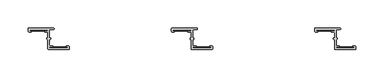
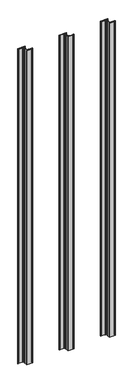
"""IFC4 building model written with IfcOpenShell, lengths in millimetres: fastener geometry."""

from ifc_helpers import new_model, si_unit, frame, origin, origin_with_axes, place, context, project, spatial, polyline, circle_curve, outline, extrude, source, transform, mapped, element, save
from ifc_brep_helpers import plane_surface, cylinder_surface, revolved_surface, advanced_brep


def fastener_0e16a299(model_context):
    return source(origin(), model_context, "Body", "SolidModel", [
        advanced_brep(
        [(1070.102, -3.556, 2032.0), (1101.09, -3.556, 2032.0), (1101.09, -5.2832, 2032.0), (1096.899, -5.2832, 2032.0), (1096.899, -7.3152, 2032.0), (1101.09, -7.3152, 2032.0), (1101.852, -8.0772, 2032.0), (1101.852, -17.7601563, 2032.0), (1101.0035567, -17.7601563, 2032.0), (1101.0035567, -20.4288947, 2032.0), (1101.852, -20.4288947, 2032.0), (1101.852, -37.3379766, 2032.0), (1102.614, -38.0999766, 2032.0), (1138.8513242, -38.1, 2032.0), (1139.571, -37.3379766, 2032.0), (1139.571, -33.7057766, 2032.0), (1137.539, -31.6737766, 2032.0), (1135.253, -31.6737766, 2032.0), (1135.253, -33.7057766, 2032.0), (1136.269, -33.7057766, 2032.0), (1136.269, -35.4329766, 2032.0), (1105.281, -35.4329766, 2032.0), (1105.281, -33.7057766, 2032.0), (1109.472, -33.7057766, 2032.0), (1109.472, -31.6737766, 2032.0), (1105.281, -31.6737766, 2032.0), (1104.519, -30.9117766, 2032.0), (1104.519, -20.4279799, 2032.0), (1105.3679007, -20.4279799, 2032.0), (1105.3679007, -17.7601563, 2032.0), (1104.519, -17.7601563, 2032.0), (1104.519, -3.429, 2032.0), (1105.281, -2.667, 2032.0), (1111.377, -2.667, 2032.0), (1111.377, 0.0, 2032.0), (1067.562, 0.0, 2032.0), (1066.8, -0.762, 2032.0), (1066.8, -5.2832, 2032.0), (1068.832, -7.3152, 2032.0), (1071.118, -7.3152, 2032.0), (1071.118, -5.2832, 2032.0), (1070.102, -5.2832, 2032.0), (1070.102, -3.556, 0.0), (1070.102, -5.2832, 0.0), (1071.118, -5.2832, 0.0), (1071.118, -7.3152, 0.0), (1068.832, -7.3152, 0.0), (1066.8, -5.2832, 0.0), (1066.8, -0.762, 0.0), (1067.562, 0.0, 0.0), (1111.377, 0.0, 0.0), (1111.377, -2.667, 0.0), (1105.281, -2.667, 0.0), (1104.519, -3.429, 0.0), (1104.519, -17.7601563, 0.0), (1105.3679007, -17.7601563, 0.0), (1105.3679007, -20.4279799, 0.0), (1104.519, -20.4279799, 0.0), (1104.519, -30.9117766, 0.0), (1105.281, -31.6737766, 0.0), (1109.472, -31.6737766, 0.0), (1109.472, -33.7057766, 0.0), (1105.281, -33.7057766, 0.0), (1105.281, -35.4329766, 0.0), (1136.269, -35.4329766, 0.0), (1136.269, -33.7057766, 0.0), (1135.253, -33.7057766, 0.0), (1135.253, -31.6737766, 0.0), (1137.539, -31.6737766, 0.0), (1139.571, -33.7057766, 0.0), (1139.571, -37.3379766, 0.0), (1138.809, -38.0999766, 0.0), (1102.7467826, -38.1, 0.0), (1101.852, -37.3379766, 0.0), (1101.852, -20.4288947, 0.0), (1101.0035567, -20.4288947, 0.0), (1101.0035567, -17.7601563, 0.0), (1101.852, -17.7601563, 0.0), (1101.852, -8.0772, 0.0), (1101.09, -7.3152, 0.0), (1096.899, -7.3152, 0.0), (1096.899, -5.2832, 0.0), (1101.09, -5.2832, 0.0), (1101.09, -3.556, 0.0)],
        [
            (0, 1),
            (1, 2, circle_curve(frame((1101.09, -4.4196, 2032.0), z_axis=(0.0, 0.0, -1.0), x_axis=(1.0, 0.0, 0.0)), 0.8636)),
            (2, 3),
            (3, 4, circle_curve(frame((1096.899, -6.2992, 2032.0), z_axis=(0.0, 0.0, 1.0), x_axis=(1.0, 0.0, 0.0)), 1.016)),
            (4, 5),
            (5, 6, circle_curve(frame((1101.09, -8.0772, 2032.0), z_axis=(0.0, 0.0, -1.0), x_axis=(1.0, 0.0, 0.0)), 0.762)),
            (6, 7),
            (7, 8),
            (8, 9, circle_curve(frame((1101.0035567, -19.0945255, 2032.0), z_axis=(0.0, 0.0, 1.0), x_axis=(1.0, 0.0, 0.0)), 1.3343692)),
            (9, 10),
            (10, 11),
            (11, 12, circle_curve(frame((1102.614, -37.3379766, 2032.0), z_axis=(0.0, 0.0, 1.0), x_axis=(1.0, 0.0, 0.0)), 0.762)),
            (12, 13),
            (13, 14, circle_curve(frame((1138.809, -37.3379766, 2032.0), z_axis=(0.0, 0.0, 1.0), x_axis=(1.0, 0.0, 0.0)), 0.762)),
            (14, 15),
            (15, 16, circle_curve(frame((1137.539, -33.7057766, 2032.0), z_axis=(0.0, 0.0, 1.0), x_axis=(1.0, 0.0, 0.0)), 2.032)),
            (16, 17),
            (17, 18, circle_curve(frame((1135.253, -32.6897766, 2032.0), z_axis=(0.0, 0.0, 1.0), x_axis=(1.0, 0.0, 0.0)), 1.016)),
            (18, 19),
            (19, 20, circle_curve(frame((1136.269, -34.5693766, 2032.0), z_axis=(0.0, 0.0, -1.0), x_axis=(1.0, 0.0, 0.0)), 0.8636)),
            (20, 21),
            (21, 22, circle_curve(frame((1105.281, -34.5693766, 2032.0), z_axis=(0.0, 0.0, -1.0), x_axis=(1.0, 0.0, 0.0)), 0.8636)),
            (22, 23),
            (23, 24, circle_curve(frame((1109.472, -32.6897766, 2032.0), z_axis=(0.0, 0.0, 1.0), x_axis=(1.0, 0.0, 0.0)), 1.016)),
            (24, 25),
            (25, 26, circle_curve(frame((1105.281, -30.9117766, 2032.0), z_axis=(0.0, 0.0, -1.0), x_axis=(1.0, 0.0, 0.0)), 0.762)),
            (26, 27),
            (27, 28),
            (28, 29, circle_curve(frame((1105.3679007, -19.0940681, 2032.0), z_axis=(0.0, 0.0, 1.0), x_axis=(1.0, 0.0, 0.0)), 1.3339118)),
            (29, 30),
            (30, 31),
            (31, 32, circle_curve(frame((1105.281, -3.429, 2032.0), z_axis=(0.0, 0.0, -1.0), x_axis=(1.0, 0.0, 0.0)), 0.762)),
            (32, 33),
            (33, 34, circle_curve(frame((1111.377, -1.3335, 2032.0), z_axis=(0.0, 0.0, 1.0), x_axis=(1.0, 0.0, 0.0)), 1.3335)),
            (34, 35),
            (35, 36, circle_curve(frame((1067.562, -0.762, 2032.0), z_axis=(0.0, 0.0, 1.0), x_axis=(1.0, 0.0, 0.0)), 0.762)),
            (36, 37),
            (37, 38, circle_curve(frame((1068.832, -5.2832, 2032.0), z_axis=(0.0, 0.0, 1.0), x_axis=(1.0, 0.0, 0.0)), 2.032)),
            (38, 39),
            (39, 40, circle_curve(frame((1071.118, -6.2992, 2032.0), z_axis=(0.0, 0.0, 1.0), x_axis=(1.0, 0.0, 0.0)), 1.016)),
            (40, 41),
            (41, 0, circle_curve(frame((1070.102, -4.4196, 2032.0), z_axis=(0.0, 0.0, -1.0), x_axis=(1.0, 0.0, 0.0)), 0.8636)),
            (42, 43, circle_curve(frame((1070.102, -4.4196, 0.0), z_axis=(0.0, 0.0, 1.0), x_axis=(1.0, 0.0, 0.0)), 0.8636)),
            (43, 44),
            (44, 45, circle_curve(frame((1071.118, -6.2992, 0.0), z_axis=(0.0, 0.0, -1.0), x_axis=(1.0, 0.0, 0.0)), 1.016)),
            (45, 46),
            (46, 47, circle_curve(frame((1068.832, -5.2832, 0.0), z_axis=(0.0, 0.0, -1.0), x_axis=(1.0, 0.0, 0.0)), 2.032)),
            (47, 48),
            (48, 49, circle_curve(frame((1067.562, -0.762, 0.0), z_axis=(0.0, 0.0, -1.0), x_axis=(1.0, 0.0, 0.0)), 0.762)),
            (49, 50),
            (50, 51, circle_curve(frame((1111.377, -1.3335, 0.0), z_axis=(0.0, 0.0, -1.0), x_axis=(1.0, 0.0, 0.0)), 1.3335)),
            (51, 52),
            (52, 53, circle_curve(frame((1105.281, -3.429, 0.0), z_axis=(0.0, 0.0, 1.0), x_axis=(1.0, 0.0, 0.0)), 0.762)),
            (53, 54),
            (54, 55),
            (55, 56, circle_curve(frame((1105.3679007, -19.0940681, 0.0), z_axis=(0.0, 0.0, -1.0), x_axis=(1.0, 0.0, 0.0)), 1.3339118)),
            (56, 57),
            (57, 58),
            (58, 59, circle_curve(frame((1105.281, -30.9117766, 0.0), z_axis=(0.0, 0.0, 1.0), x_axis=(1.0, 0.0, 0.0)), 0.762)),
            (59, 60),
            (60, 61, circle_curve(frame((1109.472, -32.6897766, 0.0), z_axis=(0.0, 0.0, -1.0), x_axis=(1.0, 0.0, 0.0)), 1.016)),
            (61, 62),
            (62, 63, circle_curve(frame((1105.281, -34.5693766, 0.0), z_axis=(0.0, 0.0, 1.0), x_axis=(1.0, 0.0, 0.0)), 0.8636)),
            (63, 64),
            (64, 65, circle_curve(frame((1136.269, -34.5693766, 0.0), z_axis=(0.0, 0.0, 1.0), x_axis=(1.0, 0.0, 0.0)), 0.8636)),
            (65, 66),
            (66, 67, circle_curve(frame((1135.253, -32.6897766, 0.0), z_axis=(0.0, 0.0, -1.0), x_axis=(1.0, 0.0, 0.0)), 1.016)),
            (67, 68),
            (68, 69, circle_curve(frame((1137.539, -33.7057766, 0.0), z_axis=(0.0, 0.0, -1.0), x_axis=(1.0, 0.0, 0.0)), 2.032)),
            (69, 70),
            (70, 71, circle_curve(frame((1138.809, -37.3379766, 0.0), z_axis=(0.0, 0.0, -1.0), x_axis=(1.0, 0.0, 0.0)), 0.762)),
            (71, 72),
            (72, 73, circle_curve(frame((1102.614, -37.3379766, 0.0), z_axis=(0.0, 0.0, -1.0), x_axis=(1.0, 0.0, 0.0)), 0.762)),
            (73, 74),
            (74, 75),
            (75, 76, circle_curve(frame((1101.0035567, -19.0945255, 0.0), z_axis=(0.0, 0.0, -1.0), x_axis=(1.0, 0.0, 0.0)), 1.3343692)),
            (76, 77),
            (77, 78),
            (78, 79, circle_curve(frame((1101.09, -8.0772, 0.0), z_axis=(0.0, 0.0, 1.0), x_axis=(1.0, 0.0, 0.0)), 0.762)),
            (79, 80),
            (80, 81, circle_curve(frame((1096.899, -6.2992, 0.0), z_axis=(0.0, 0.0, -1.0), x_axis=(1.0, 0.0, 0.0)), 1.016)),
            (81, 82),
            (82, 83, circle_curve(frame((1101.09, -4.4196, 0.0), z_axis=(0.0, 0.0, 1.0), x_axis=(1.0, 0.0, 0.0)), 0.8636)),
            (83, 42),
            (0, 42),
            (83, 1),
            (82, 2),
            (81, 3),
            (80, 4),
            (79, 5),
            (78, 6),
            (77, 7),
            (76, 8),
            (75, 9),
            (74, 10),
            (73, 11),
            (72, 12),
            (71, 13),
            (70, 14),
            (69, 15),
            (68, 16),
            (67, 17),
            (66, 18),
            (65, 19),
            (64, 20),
            (63, 21),
            (62, 22),
            (61, 23),
            (60, 24),
            (59, 25),
            (58, 26),
            (57, 27),
            (56, 28),
            (55, 29),
            (54, 30),
            (53, 31),
            (52, 32),
            (51, 33),
            (50, 34),
            (49, 35),
            (48, 36),
            (47, 37),
            (46, 38),
            (45, 39),
            (44, 40),
            (43, 41),
        ],
        [
            plane_surface(frame((1101.09, -3.556, 2032.0), z_axis=(0.0, 0.0, 1.0), x_axis=(1.0, 0.0, 0.0))),
            plane_surface(frame((1101.09, -3.556, 0.0), z_axis=(0.0, 0.0, -1.0), x_axis=(-1.0, 0.0, 0.0))),
            plane_surface(frame((1070.102, -3.556, 2032.0), z_axis=(0.0, -1.0, 0.0), x_axis=(0.0, 0.0, -1.0))),
            revolved_surface(polyline([(1101.9535999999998, -4.4196, 0.0), (1101.9535999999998, -4.4196, 2032.0)]), (1101.09, -4.4196, 0.0), (0.0, 0.0, -1.0)),
            plane_surface(frame((1101.09, -5.2832, 2032.0), z_axis=(0.0, 1.0, 0.0), x_axis=(0.0, 0.0, -1.0))),
            cylinder_surface(frame((1096.899, -6.2992, 0.0), z_axis=(0.0, 0.0, 1.0), x_axis=(1.0, 0.0, 0.0)), 1.016),
            plane_surface(frame((1096.899, -7.3152, 2032.0), z_axis=(0.0, -1.0, 0.0), x_axis=(0.0, 0.0, -1.0))),
            revolved_surface(polyline([(1101.8519999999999, -8.0772, 0.0), (1101.8519999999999, -8.0772, 2032.0)]), (1101.09, -8.0772, 0.0), (0.0, 0.0, -1.0)),
            plane_surface(frame((1101.852, -8.0772, 2032.0), z_axis=(-1.0, 0.0, 0.0), x_axis=(0.0, 0.0, -1.0))),
            plane_surface(frame((1101.852, -17.7601563, 2032.0), z_axis=(0.0, 1.0, 0.0), x_axis=(0.0, 0.0, -1.0))),
            cylinder_surface(frame((1101.0035567, -19.0945255, 0.0), z_axis=(0.0, 0.0, 1.0), x_axis=(1.0, 0.0, 0.0)), 1.3343692),
            plane_surface(frame((1101.0035567, -20.4288947, 2032.0), z_axis=(0.0, -1.0, 0.0), x_axis=(0.0, 0.0, -1.0))),
            plane_surface(frame((1101.852, -20.4288947, 2032.0), z_axis=(-1.0, 0.0, 0.0), x_axis=(0.0, 0.0, -1.0))),
            cylinder_surface(frame((1102.614, -37.3379766, 0.0), z_axis=(0.0, 0.0, 1.0), x_axis=(1.0, 0.0, 0.0)), 0.762),
            plane_surface(frame((1102.7467826, -38.1, 2032.0), z_axis=(0.0, -1.0, 0.0), x_axis=(0.0, 0.0, -1.0))),
            cylinder_surface(frame((1138.809, -37.3379766, 0.0), z_axis=(0.0, 0.0, 1.0), x_axis=(1.0, 0.0, 0.0)), 0.762),
            plane_surface(frame((1139.571, -37.3379766, 2032.0), z_axis=(1.0, 1.094695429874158e-12, 0.0), x_axis=(0.0, 0.0, -1.0))),
            cylinder_surface(frame((1137.539, -33.7057766, 0.0), z_axis=(0.0, 0.0, 1.0), x_axis=(1.0, 0.0, 0.0)), 2.032),
            plane_surface(frame((1137.539, -31.6737766, 2032.0), z_axis=(0.0, 1.0, 0.0), x_axis=(0.0, 0.0, -1.0))),
            cylinder_surface(frame((1135.253, -32.6897766, 0.0), z_axis=(0.0, 0.0, 1.0), x_axis=(1.0, 0.0, 0.0)), 1.016),
            plane_surface(frame((1135.253, -33.7057766, 2032.0), z_axis=(0.0, -1.0, 0.0), x_axis=(0.0, 0.0, -1.0))),
            revolved_surface(polyline([(1137.1326, -34.5693766, 0.0), (1137.1326, -34.5693766, 2032.0)]), (1136.269, -34.5693766, 0.0), (0.0, 0.0, -1.0)),
            plane_surface(frame((1136.269, -35.4329766, 2032.0), z_axis=(0.0, 1.0, 0.0), x_axis=(0.0, 0.0, -1.0))),
            revolved_surface(polyline([(1106.1445999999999, -34.5693766, 0.0), (1106.1445999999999, -34.5693766, 2032.0)]), (1105.281, -34.5693766, 0.0), (0.0, 0.0, -1.0)),
            plane_surface(frame((1105.281, -33.7057766, 2032.0), z_axis=(0.0, -1.0, 0.0), x_axis=(0.0, 0.0, -1.0))),
            cylinder_surface(frame((1109.472, -32.6897766, 0.0), z_axis=(0.0, 0.0, 1.0), x_axis=(1.0, 0.0, 0.0)), 1.016),
            plane_surface(frame((1109.472, -31.6737766, 2032.0), z_axis=(0.0, 1.0, 0.0), x_axis=(0.0, 0.0, -1.0))),
            revolved_surface(polyline([(1106.043, -30.9117766, 0.0), (1106.043, -30.9117766, 2032.0)]), (1105.281, -30.9117766, 0.0), (0.0, 0.0, -1.0)),
            plane_surface(frame((1104.519, -30.9117766, 2032.0), z_axis=(1.0, 0.0, 0.0), x_axis=(0.0, 0.0, -1.0))),
            plane_surface(frame((1104.519, -20.4279799, 2032.0), z_axis=(0.0, -1.0, 0.0), x_axis=(0.0, 0.0, -1.0))),
            cylinder_surface(frame((1105.3679007, -19.0940681, 0.0), z_axis=(0.0, 0.0, 1.0), x_axis=(1.0, 0.0, 0.0)), 1.3339118),
            plane_surface(frame((1105.3679007, -17.7601563, 2032.0), z_axis=(0.0, 1.0, 0.0), x_axis=(0.0, 0.0, -1.0))),
            plane_surface(frame((1104.519, -17.7601563, 2032.0), z_axis=(1.0, 0.0, 0.0), x_axis=(0.0, 0.0, -1.0))),
            revolved_surface(polyline([(1106.043, -3.429, 0.0), (1106.043, -3.429, 2032.0)]), (1105.281, -3.429, 0.0), (0.0, 0.0, -1.0)),
            plane_surface(frame((1105.281, -2.667, 2032.0), z_axis=(0.0, -1.0, 0.0), x_axis=(0.0, 0.0, -1.0))),
            cylinder_surface(frame((1111.377, -1.3335, 0.0), z_axis=(0.0, 0.0, 1.0), x_axis=(1.0, 0.0, 0.0)), 1.3335),
            plane_surface(frame((1111.377, 0.0, 2032.0), z_axis=(0.0, 1.0, 0.0), x_axis=(0.0, 0.0, -1.0))),
            cylinder_surface(frame((1067.562, -0.762, 0.0), z_axis=(0.0, 0.0, 1.0), x_axis=(1.0, 0.0, 0.0)), 0.762),
            plane_surface(frame((1066.8, -0.762, 2032.0), z_axis=(-1.0, 1.1909948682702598e-12, 0.0), x_axis=(0.0, 0.0, -1.0))),
            cylinder_surface(frame((1068.832, -5.2832, 0.0), z_axis=(0.0, 0.0, 1.0), x_axis=(1.0, 0.0, 0.0)), 2.032),
            plane_surface(frame((1068.832, -7.3152, 2032.0), z_axis=(0.0, -1.0, 0.0), x_axis=(0.0, 0.0, -1.0))),
            cylinder_surface(frame((1071.118, -6.2992, 0.0), z_axis=(0.0, 0.0, 1.0), x_axis=(1.0, 0.0, 0.0)), 1.016),
            plane_surface(frame((1071.118, -5.2832, 2032.0), z_axis=(0.0, 1.0, 0.0), x_axis=(0.0, 0.0, -1.0))),
            revolved_surface(polyline([(1070.9656, -4.4196, 0.0), (1070.9656, -4.4196, 2032.0)]), (1070.102, -4.4196, 0.0), (0.0, 0.0, -1.0)),
        ],
        [
            (0, [[1, 2, 3, 4, 5, 6, 7, 8, 9, 10, 11, 12, 13, 14, 15, 16, 17, 18, 19, 20, 21, 22, 23, 24, 25, 26, 27, 28, 29, 30, 31, 32, 33, 34, 35, 36, 37, 38, 39, 40, 41, 42]]),
            (1, [[43, 44, 45, 46, 47, 48, 49, 50, 51, 52, 53, 54, 55, 56, 57, 58, 59, 60, 61, 62, 63, 64, 65, 66, 67, 68, 69, 70, 71, 72, 73, 74, 75, 76, 77, 78, 79, 80, 81, 82, 83, 84]]),
            (2, [[-1, 85, -84, 86]]),
            (3, [[-2, -86, -83, 87]]),
            (4, [[-3, -87, -82, 88]]),
            (5, [[-4, -88, -81, 89]]),
            (6, [[-5, -89, -80, 90]]),
            (7, [[-6, -90, -79, 91]]),
            (8, [[-7, -91, -78, 92]]),
            (9, [[-8, -92, -77, 93]]),
            (10, [[-9, -93, -76, 94]]),
            (11, [[-10, -94, -75, 95]]),
            (12, [[-11, -95, -74, 96]]),
            (13, [[-12, -96, -73, 97]]),
            (14, [[-13, -97, -72, 98]]),
            (15, [[-14, -98, -71, 99]]),
            (16, [[-15, -99, -70, 100]]),
            (17, [[-16, -100, -69, 101]]),
            (18, [[-17, -101, -68, 102]]),
            (19, [[-18, -102, -67, 103]]),
            (20, [[-19, -103, -66, 104]]),
            (21, [[-20, -104, -65, 105]]),
            (22, [[-21, -105, -64, 106]]),
            (23, [[-22, -106, -63, 107]]),
            (24, [[-23, -107, -62, 108]]),
            (25, [[-24, -108, -61, 109]]),
            (26, [[-25, -109, -60, 110]]),
            (27, [[-26, -110, -59, 111]]),
            (28, [[-27, -111, -58, 112]]),
            (29, [[-28, -112, -57, 113]]),
            (30, [[-29, -113, -56, 114]]),
            (31, [[-30, -114, -55, 115]]),
            (32, [[-31, -115, -54, 116]]),
            (33, [[-32, -116, -53, 117]]),
            (34, [[-33, -117, -52, 118]]),
            (35, [[-34, -118, -51, 119]]),
            (36, [[-35, -119, -50, 120]]),
            (37, [[-36, -120, -49, 121]]),
            (38, [[-37, -121, -48, 122]]),
            (39, [[-38, -122, -47, 123]]),
            (40, [[-39, -123, -46, 124]]),
            (41, [[-40, -124, -45, 125]]),
            (42, [[-41, -125, -44, 126]]),
            (43, [[-42, -126, -43, -85]]),
        ],
    ),
        extrude(outline(polyline([(1101.09, -3.556), (1101.09, -5.2832), (1070.102, -5.2832), (1070.102, -3.556), (1101.09, -3.556)])), origin_with_axes(), (0.0, 0.0, 1.0), 2032.0),
        extrude(outline(polyline([(1136.269, -33.7057766), (1136.269, -35.4329766), (1105.281, -35.4329766), (1105.281, -33.7057766), (1136.269, -33.7057766)])), origin_with_axes(), (0.0, 0.0, 1.0), 2032.0),
        advanced_brep(
        [(816.102, -3.556, 2032.0), (847.09, -3.556, 2032.0), (847.09, -5.2832, 2032.0), (842.899, -5.2832, 2032.0), (842.899, -7.3152, 2032.0), (847.09, -7.3152, 2032.0), (847.852, -8.0772, 2032.0), (847.852, -17.7601563, 2032.0), (847.0035567, -17.7601563, 2032.0), (847.0035567, -20.4288947, 2032.0), (847.852, -20.4288947, 2032.0), (847.852, -37.3379766, 2032.0), (848.614, -38.0999766, 2032.0), (884.8513242, -38.1, 2032.0), (885.571, -37.3379766, 2032.0), (885.571, -33.7057766, 2032.0), (883.539, -31.6737766, 2032.0), (881.253, -31.6737766, 2032.0), (881.253, -33.7057766, 2032.0), (882.269, -33.7057766, 2032.0), (882.269, -35.4329766, 2032.0), (851.281, -35.4329766, 2032.0), (851.281, -33.7057766, 2032.0), (855.472, -33.7057766, 2032.0), (855.472, -31.6737766, 2032.0), (851.281, -31.6737766, 2032.0), (850.519, -30.9117766, 2032.0), (850.519, -20.4279799, 2032.0), (851.3679007, -20.4279799, 2032.0), (851.3679007, -17.7601563, 2032.0), (850.519, -17.7601563, 2032.0), (850.519, -3.429, 2032.0), (851.281, -2.667, 2032.0), (857.377, -2.667, 2032.0), (857.377, 0.0, 2032.0), (813.562, 0.0, 2032.0), (812.8, -0.762, 2032.0), (812.8, -5.2832, 2032.0), (814.832, -7.3152, 2032.0), (817.118, -7.3152, 2032.0), (817.118, -5.2832, 2032.0), (816.102, -5.2832, 2032.0), (816.102, -3.556, 0.0), (816.102, -5.2832, 0.0), (817.118, -5.2832, 0.0), (817.118, -7.3152, 0.0), (814.832, -7.3152, 0.0), (812.8, -5.2832, 0.0), (812.8, -0.762, 0.0), (813.562, 0.0, 0.0), (857.377, 0.0, 0.0), (857.377, -2.667, 0.0), (851.281, -2.667, 0.0), (850.519, -3.429, 0.0), (850.519, -17.7601563, 0.0), (851.3679007, -17.7601563, 0.0), (851.3679007, -20.4279799, 0.0), (850.519, -20.4279799, 0.0), (850.519, -30.9117766, 0.0), (851.281, -31.6737766, 0.0), (855.472, -31.6737766, 0.0), (855.472, -33.7057766, 0.0), (851.281, -33.7057766, 0.0), (851.281, -35.4329766, 0.0), (882.269, -35.4329766, 0.0), (882.269, -33.7057766, 0.0), (881.253, -33.7057766, 0.0), (881.253, -31.6737766, 0.0), (883.539, -31.6737766, 0.0), (885.571, -33.7057766, 0.0), (885.571, -37.3379766, 0.0), (884.809, -38.0999766, 0.0), (848.7467826, -38.1, 0.0), (847.852, -37.3379766, 0.0), (847.852, -20.4288947, 0.0), (847.0035567, -20.4288947, 0.0), (847.0035567, -17.7601563, 0.0), (847.852, -17.7601563, 0.0), (847.852, -8.0772, 0.0), (847.09, -7.3152, 0.0), (842.899, -7.3152, 0.0), (842.899, -5.2832, 0.0), (847.09, -5.2832, 0.0), (847.09, -3.556, 0.0)],
        [
            (0, 1),
            (1, 2, circle_curve(frame((847.09, -4.4196, 2032.0), z_axis=(0.0, 0.0, -1.0), x_axis=(1.0, 0.0, 0.0)), 0.8636)),
            (2, 3),
            (3, 4, circle_curve(frame((842.899, -6.2992, 2032.0), z_axis=(0.0, 0.0, 1.0), x_axis=(1.0, 0.0, 0.0)), 1.016)),
            (4, 5),
            (5, 6, circle_curve(frame((847.09, -8.0772, 2032.0), z_axis=(0.0, 0.0, -1.0), x_axis=(1.0, 0.0, 0.0)), 0.762)),
            (6, 7),
            (7, 8),
            (8, 9, circle_curve(frame((847.0035567, -19.0945255, 2032.0), z_axis=(0.0, 0.0, 1.0), x_axis=(1.0, 0.0, 0.0)), 1.3343692)),
            (9, 10),
            (10, 11),
            (11, 12, circle_curve(frame((848.614, -37.3379766, 2032.0), z_axis=(0.0, 0.0, 1.0), x_axis=(1.0, 0.0, 0.0)), 0.762)),
            (12, 13),
            (13, 14, circle_curve(frame((884.809, -37.3379766, 2032.0), z_axis=(0.0, 0.0, 1.0), x_axis=(1.0, 0.0, 0.0)), 0.762)),
            (14, 15),
            (15, 16, circle_curve(frame((883.539, -33.7057766, 2032.0), z_axis=(0.0, 0.0, 1.0), x_axis=(1.0, 0.0, 0.0)), 2.032)),
            (16, 17),
            (17, 18, circle_curve(frame((881.253, -32.6897766, 2032.0), z_axis=(0.0, 0.0, 1.0), x_axis=(1.0, 0.0, 0.0)), 1.016)),
            (18, 19),
            (19, 20, circle_curve(frame((882.269, -34.5693766, 2032.0), z_axis=(0.0, 0.0, -1.0), x_axis=(1.0, 0.0, 0.0)), 0.8636)),
            (20, 21),
            (21, 22, circle_curve(frame((851.281, -34.5693766, 2032.0), z_axis=(0.0, 0.0, -1.0), x_axis=(1.0, 0.0, 0.0)), 0.8636)),
            (22, 23),
            (23, 24, circle_curve(frame((855.472, -32.6897766, 2032.0), z_axis=(0.0, 0.0, 1.0), x_axis=(1.0, 0.0, 0.0)), 1.016)),
            (24, 25),
            (25, 26, circle_curve(frame((851.281, -30.9117766, 2032.0), z_axis=(0.0, 0.0, -1.0), x_axis=(1.0, 0.0, 0.0)), 0.762)),
            (26, 27),
            (27, 28),
            (28, 29, circle_curve(frame((851.3679007, -19.0940681, 2032.0), z_axis=(0.0, 0.0, 1.0), x_axis=(1.0, 0.0, 0.0)), 1.3339118)),
            (29, 30),
            (30, 31),
            (31, 32, circle_curve(frame((851.281, -3.429, 2032.0), z_axis=(0.0, 0.0, -1.0), x_axis=(1.0, 0.0, 0.0)), 0.762)),
            (32, 33),
            (33, 34, circle_curve(frame((857.377, -1.3335, 2032.0), z_axis=(0.0, 0.0, 1.0), x_axis=(1.0, 0.0, 0.0)), 1.3335)),
            (34, 35),
            (35, 36, circle_curve(frame((813.562, -0.762, 2032.0), z_axis=(0.0, 0.0, 1.0), x_axis=(1.0, 0.0, 0.0)), 0.762)),
            (36, 37),
            (37, 38, circle_curve(frame((814.832, -5.2832, 2032.0), z_axis=(0.0, 0.0, 1.0), x_axis=(1.0, 0.0, 0.0)), 2.032)),
            (38, 39),
            (39, 40, circle_curve(frame((817.118, -6.2992, 2032.0), z_axis=(0.0, 0.0, 1.0), x_axis=(1.0, 0.0, 0.0)), 1.016)),
            (40, 41),
            (41, 0, circle_curve(frame((816.102, -4.4196, 2032.0), z_axis=(0.0, 0.0, -1.0), x_axis=(1.0, 0.0, 0.0)), 0.8636)),
            (42, 43, circle_curve(frame((816.102, -4.4196, 0.0), z_axis=(0.0, 0.0, 1.0), x_axis=(1.0, 0.0, 0.0)), 0.8636)),
            (43, 44),
            (44, 45, circle_curve(frame((817.118, -6.2992, 0.0), z_axis=(0.0, 0.0, -1.0), x_axis=(1.0, 0.0, 0.0)), 1.016)),
            (45, 46),
            (46, 47, circle_curve(frame((814.832, -5.2832, 0.0), z_axis=(0.0, 0.0, -1.0), x_axis=(1.0, 0.0, 0.0)), 2.032)),
            (47, 48),
            (48, 49, circle_curve(frame((813.562, -0.762, 0.0), z_axis=(0.0, 0.0, -1.0), x_axis=(1.0, 0.0, 0.0)), 0.762)),
            (49, 50),
            (50, 51, circle_curve(frame((857.377, -1.3335, 0.0), z_axis=(0.0, 0.0, -1.0), x_axis=(1.0, 0.0, 0.0)), 1.3335)),
            (51, 52),
            (52, 53, circle_curve(frame((851.281, -3.429, 0.0), z_axis=(0.0, 0.0, 1.0), x_axis=(1.0, 0.0, 0.0)), 0.762)),
            (53, 54),
            (54, 55),
            (55, 56, circle_curve(frame((851.3679007, -19.0940681, 0.0), z_axis=(0.0, 0.0, -1.0), x_axis=(1.0, 0.0, 0.0)), 1.3339118)),
            (56, 57),
            (57, 58),
            (58, 59, circle_curve(frame((851.281, -30.9117766, 0.0), z_axis=(0.0, 0.0, 1.0), x_axis=(1.0, 0.0, 0.0)), 0.762)),
            (59, 60),
            (60, 61, circle_curve(frame((855.472, -32.6897766, 0.0), z_axis=(0.0, 0.0, -1.0), x_axis=(1.0, 0.0, 0.0)), 1.016)),
            (61, 62),
            (62, 63, circle_curve(frame((851.281, -34.5693766, 0.0), z_axis=(0.0, 0.0, 1.0), x_axis=(1.0, 0.0, 0.0)), 0.8636)),
            (63, 64),
            (64, 65, circle_curve(frame((882.269, -34.5693766, 0.0), z_axis=(0.0, 0.0, 1.0), x_axis=(1.0, 0.0, 0.0)), 0.8636)),
            (65, 66),
            (66, 67, circle_curve(frame((881.253, -32.6897766, 0.0), z_axis=(0.0, 0.0, -1.0), x_axis=(1.0, 0.0, 0.0)), 1.016)),
            (67, 68),
            (68, 69, circle_curve(frame((883.539, -33.7057766, 0.0), z_axis=(0.0, 0.0, -1.0), x_axis=(1.0, 0.0, 0.0)), 2.032)),
            (69, 70),
            (70, 71, circle_curve(frame((884.809, -37.3379766, 0.0), z_axis=(0.0, 0.0, -1.0), x_axis=(1.0, 0.0, 0.0)), 0.762)),
            (71, 72),
            (72, 73, circle_curve(frame((848.614, -37.3379766, 0.0), z_axis=(0.0, 0.0, -1.0), x_axis=(1.0, 0.0, 0.0)), 0.762)),
            (73, 74),
            (74, 75),
            (75, 76, circle_curve(frame((847.0035567, -19.0945255, 0.0), z_axis=(0.0, 0.0, -1.0), x_axis=(1.0, 0.0, 0.0)), 1.3343692)),
            (76, 77),
            (77, 78),
            (78, 79, circle_curve(frame((847.09, -8.0772, 0.0), z_axis=(0.0, 0.0, 1.0), x_axis=(1.0, 0.0, 0.0)), 0.762)),
            (79, 80),
            (80, 81, circle_curve(frame((842.899, -6.2992, 0.0), z_axis=(0.0, 0.0, -1.0), x_axis=(1.0, 0.0, 0.0)), 1.016)),
            (81, 82),
            (82, 83, circle_curve(frame((847.09, -4.4196, 0.0), z_axis=(0.0, 0.0, 1.0), x_axis=(1.0, 0.0, 0.0)), 0.8636)),
            (83, 42),
            (0, 42),
            (83, 1),
            (82, 2),
            (81, 3),
            (80, 4),
            (79, 5),
            (78, 6),
            (77, 7),
            (76, 8),
            (75, 9),
            (74, 10),
            (73, 11),
            (72, 12),
            (71, 13),
            (70, 14),
            (69, 15),
            (68, 16),
            (67, 17),
            (66, 18),
            (65, 19),
            (64, 20),
            (63, 21),
            (62, 22),
            (61, 23),
            (60, 24),
            (59, 25),
            (58, 26),
            (57, 27),
            (56, 28),
            (55, 29),
            (54, 30),
            (53, 31),
            (52, 32),
            (51, 33),
            (50, 34),
            (49, 35),
            (48, 36),
            (47, 37),
            (46, 38),
            (45, 39),
            (44, 40),
            (43, 41),
        ],
        [
            plane_surface(frame((847.09, -3.556, 2032.0), z_axis=(0.0, 0.0, 1.0), x_axis=(1.0, 0.0, 0.0))),
            plane_surface(frame((847.09, -3.556, 0.0), z_axis=(0.0, 0.0, -1.0), x_axis=(-1.0, 0.0, 0.0))),
            plane_surface(frame((816.102, -3.556, 2032.0), z_axis=(0.0, -1.0, 0.0), x_axis=(0.0, 0.0, -1.0))),
            revolved_surface(polyline([(847.9536, -4.4196, 0.0), (847.9536, -4.4196, 2032.0)]), (847.09, -4.4196, 0.0), (0.0, 0.0, -1.0)),
            plane_surface(frame((847.09, -5.2832, 2032.0), z_axis=(0.0, 1.0, 0.0), x_axis=(0.0, 0.0, -1.0))),
            cylinder_surface(frame((842.899, -6.2992, 0.0), z_axis=(0.0, 0.0, 1.0), x_axis=(1.0, 0.0, 0.0)), 1.016),
            plane_surface(frame((842.899, -7.3152, 2032.0), z_axis=(0.0, -1.0, 0.0), x_axis=(0.0, 0.0, -1.0))),
            revolved_surface(polyline([(847.852, -8.0772, 0.0), (847.852, -8.0772, 2032.0)]), (847.09, -8.0772, 0.0), (0.0, 0.0, -1.0)),
            plane_surface(frame((847.852, -8.0772, 2032.0), z_axis=(-1.0, 0.0, 0.0), x_axis=(0.0, 0.0, -1.0))),
            plane_surface(frame((847.852, -17.7601563, 2032.0), z_axis=(0.0, 1.0, 0.0), x_axis=(0.0, 0.0, -1.0))),
            cylinder_surface(frame((847.0035567, -19.0945255, 0.0), z_axis=(0.0, 0.0, 1.0), x_axis=(1.0, 0.0, 0.0)), 1.3343692),
            plane_surface(frame((847.0035567, -20.4288947, 2032.0), z_axis=(0.0, -1.0, 0.0), x_axis=(0.0, 0.0, -1.0))),
            plane_surface(frame((847.852, -20.4288947, 2032.0), z_axis=(-1.0, 0.0, 0.0), x_axis=(0.0, 0.0, -1.0))),
            cylinder_surface(frame((848.614, -37.3379766, 0.0), z_axis=(0.0, 0.0, 1.0), x_axis=(1.0, 0.0, 0.0)), 0.762),
            plane_surface(frame((848.7467826, -38.1, 2032.0), z_axis=(0.0, -1.0, 0.0), x_axis=(0.0, 0.0, -1.0))),
            cylinder_surface(frame((884.809, -37.3379766, 0.0), z_axis=(0.0, 0.0, 1.0), x_axis=(1.0, 0.0, 0.0)), 0.762),
            plane_surface(frame((885.571, -37.3379766, 2032.0), z_axis=(1.0, 1.094695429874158e-12, 0.0), x_axis=(0.0, 0.0, -1.0))),
            cylinder_surface(frame((883.539, -33.7057766, 0.0), z_axis=(0.0, 0.0, 1.0), x_axis=(1.0, 0.0, 0.0)), 2.032),
            plane_surface(frame((883.539, -31.6737766, 2032.0), z_axis=(0.0, 1.0, 0.0), x_axis=(0.0, 0.0, -1.0))),
            cylinder_surface(frame((881.253, -32.6897766, 0.0), z_axis=(0.0, 0.0, 1.0), x_axis=(1.0, 0.0, 0.0)), 1.016),
            plane_surface(frame((881.253, -33.7057766, 2032.0), z_axis=(0.0, -1.0, 0.0), x_axis=(0.0, 0.0, -1.0))),
            revolved_surface(polyline([(883.1326, -34.5693766, 0.0), (883.1326, -34.5693766, 2032.0)]), (882.269, -34.5693766, 0.0), (0.0, 0.0, -1.0)),
            plane_surface(frame((882.269, -35.4329766, 2032.0), z_axis=(0.0, 1.0, 0.0), x_axis=(0.0, 0.0, -1.0))),
            revolved_surface(polyline([(852.1446, -34.5693766, 0.0), (852.1446, -34.5693766, 2032.0)]), (851.281, -34.5693766, 0.0), (0.0, 0.0, -1.0)),
            plane_surface(frame((851.281, -33.7057766, 2032.0), z_axis=(0.0, -1.0, 0.0), x_axis=(0.0, 0.0, -1.0))),
            cylinder_surface(frame((855.472, -32.6897766, 0.0), z_axis=(0.0, 0.0, 1.0), x_axis=(1.0, 0.0, 0.0)), 1.016),
            plane_surface(frame((855.472, -31.6737766, 2032.0), z_axis=(0.0, 1.0, 0.0), x_axis=(0.0, 0.0, -1.0))),
            revolved_surface(polyline([(852.0429999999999, -30.9117766, 0.0), (852.0429999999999, -30.9117766, 2032.0)]), (851.281, -30.9117766, 0.0), (0.0, 0.0, -1.0)),
            plane_surface(frame((850.519, -30.9117766, 2032.0), z_axis=(1.0, 0.0, 0.0), x_axis=(0.0, 0.0, -1.0))),
            plane_surface(frame((850.519, -20.4279799, 2032.0), z_axis=(0.0, -1.0, 0.0), x_axis=(0.0, 0.0, -1.0))),
            cylinder_surface(frame((851.3679007, -19.0940681, 0.0), z_axis=(0.0, 0.0, 1.0), x_axis=(1.0, 0.0, 0.0)), 1.3339118),
            plane_surface(frame((851.3679007, -17.7601563, 2032.0), z_axis=(0.0, 1.0, 0.0), x_axis=(0.0, 0.0, -1.0))),
            plane_surface(frame((850.519, -17.7601563, 2032.0), z_axis=(1.0, 0.0, 0.0), x_axis=(0.0, 0.0, -1.0))),
            revolved_surface(polyline([(852.0429999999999, -3.429, 0.0), (852.0429999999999, -3.429, 2032.0)]), (851.281, -3.429, 0.0), (0.0, 0.0, -1.0)),
            plane_surface(frame((851.281, -2.667, 2032.0), z_axis=(0.0, -1.0, 0.0), x_axis=(0.0, 0.0, -1.0))),
            cylinder_surface(frame((857.377, -1.3335, 0.0), z_axis=(0.0, 0.0, 1.0), x_axis=(1.0, 0.0, 0.0)), 1.3335),
            plane_surface(frame((857.377, 0.0, 2032.0), z_axis=(0.0, 1.0, 0.0), x_axis=(0.0, 0.0, -1.0))),
            cylinder_surface(frame((813.562, -0.762, 0.0), z_axis=(0.0, 0.0, 1.0), x_axis=(1.0, 0.0, 0.0)), 0.762),
            plane_surface(frame((812.8, -0.762, 2032.0), z_axis=(-1.0, 1.1909948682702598e-12, 0.0), x_axis=(0.0, 0.0, -1.0))),
            cylinder_surface(frame((814.832, -5.2832, 0.0), z_axis=(0.0, 0.0, 1.0), x_axis=(1.0, 0.0, 0.0)), 2.032),
            plane_surface(frame((814.832, -7.3152, 2032.0), z_axis=(0.0, -1.0, 0.0), x_axis=(0.0, 0.0, -1.0))),
            cylinder_surface(frame((817.118, -6.2992, 0.0), z_axis=(0.0, 0.0, 1.0), x_axis=(1.0, 0.0, 0.0)), 1.016),
            plane_surface(frame((817.118, -5.2832, 2032.0), z_axis=(0.0, 1.0, 0.0), x_axis=(0.0, 0.0, -1.0))),
            revolved_surface(polyline([(816.9656, -4.4196, 0.0), (816.9656, -4.4196, 2032.0)]), (816.102, -4.4196, 0.0), (0.0, 0.0, -1.0)),
        ],
        [
            (0, [[1, 2, 3, 4, 5, 6, 7, 8, 9, 10, 11, 12, 13, 14, 15, 16, 17, 18, 19, 20, 21, 22, 23, 24, 25, 26, 27, 28, 29, 30, 31, 32, 33, 34, 35, 36, 37, 38, 39, 40, 41, 42]]),
            (1, [[43, 44, 45, 46, 47, 48, 49, 50, 51, 52, 53, 54, 55, 56, 57, 58, 59, 60, 61, 62, 63, 64, 65, 66, 67, 68, 69, 70, 71, 72, 73, 74, 75, 76, 77, 78, 79, 80, 81, 82, 83, 84]]),
            (2, [[-1, 85, -84, 86]]),
            (3, [[-2, -86, -83, 87]]),
            (4, [[-3, -87, -82, 88]]),
            (5, [[-4, -88, -81, 89]]),
            (6, [[-5, -89, -80, 90]]),
            (7, [[-6, -90, -79, 91]]),
            (8, [[-7, -91, -78, 92]]),
            (9, [[-8, -92, -77, 93]]),
            (10, [[-9, -93, -76, 94]]),
            (11, [[-10, -94, -75, 95]]),
            (12, [[-11, -95, -74, 96]]),
            (13, [[-12, -96, -73, 97]]),
            (14, [[-13, -97, -72, 98]]),
            (15, [[-14, -98, -71, 99]]),
            (16, [[-15, -99, -70, 100]]),
            (17, [[-16, -100, -69, 101]]),
            (18, [[-17, -101, -68, 102]]),
            (19, [[-18, -102, -67, 103]]),
            (20, [[-19, -103, -66, 104]]),
            (21, [[-20, -104, -65, 105]]),
            (22, [[-21, -105, -64, 106]]),
            (23, [[-22, -106, -63, 107]]),
            (24, [[-23, -107, -62, 108]]),
            (25, [[-24, -108, -61, 109]]),
            (26, [[-25, -109, -60, 110]]),
            (27, [[-26, -110, -59, 111]]),
            (28, [[-27, -111, -58, 112]]),
            (29, [[-28, -112, -57, 113]]),
            (30, [[-29, -113, -56, 114]]),
            (31, [[-30, -114, -55, 115]]),
            (32, [[-31, -115, -54, 116]]),
            (33, [[-32, -116, -53, 117]]),
            (34, [[-33, -117, -52, 118]]),
            (35, [[-34, -118, -51, 119]]),
            (36, [[-35, -119, -50, 120]]),
            (37, [[-36, -120, -49, 121]]),
            (38, [[-37, -121, -48, 122]]),
            (39, [[-38, -122, -47, 123]]),
            (40, [[-39, -123, -46, 124]]),
            (41, [[-40, -124, -45, 125]]),
            (42, [[-41, -125, -44, 126]]),
            (43, [[-42, -126, -43, -85]]),
        ],
    ),
        extrude(outline(polyline([(847.09, -3.556), (847.09, -5.2832), (816.102, -5.2832), (816.102, -3.556), (847.09, -3.556)])), origin_with_axes(), (0.0, 0.0, 1.0), 2032.0),
        extrude(outline(polyline([(882.269, -33.7057766), (882.269, -35.4329766), (851.281, -35.4329766), (851.281, -33.7057766), (882.269, -33.7057766)])), origin_with_axes(), (0.0, 0.0, 1.0), 2032.0),
        advanced_brep(
        [(562.102, -3.556, 2032.0), (593.09, -3.556, 2032.0), (593.09, -5.2832, 2032.0), (588.899, -5.2832, 2032.0), (588.899, -7.3152, 2032.0), (593.09, -7.3152, 2032.0), (593.852, -8.0772, 2032.0), (593.852, -17.7601563, 2032.0), (593.0035567, -17.7601563, 2032.0), (593.0035567, -20.4288947, 2032.0), (593.852, -20.4288947, 2032.0), (593.852, -37.3379766, 2032.0), (594.614, -38.0999766, 2032.0), (630.8513242, -38.1, 2032.0), (631.571, -37.3379766, 2032.0), (631.571, -33.7057766, 2032.0), (629.539, -31.6737766, 2032.0), (627.253, -31.6737766, 2032.0), (627.253, -33.7057766, 2032.0), (628.269, -33.7057766, 2032.0), (628.269, -35.4329766, 2032.0), (597.281, -35.4329766, 2032.0), (597.281, -33.7057766, 2032.0), (601.472, -33.7057766, 2032.0), (601.472, -31.6737766, 2032.0), (597.281, -31.6737766, 2032.0), (596.519, -30.9117766, 2032.0), (596.519, -20.4279799, 2032.0), (597.3679007, -20.4279799, 2032.0), (597.3679007, -17.7601563, 2032.0), (596.519, -17.7601563, 2032.0), (596.519, -3.429, 2032.0), (597.281, -2.667, 2032.0), (603.377, -2.667, 2032.0), (603.377, 0.0, 2032.0), (559.562, 0.0, 2032.0), (558.8, -0.762, 2032.0), (558.8, -5.2832, 2032.0), (560.832, -7.3152, 2032.0), (563.118, -7.3152, 2032.0), (563.118, -5.2832, 2032.0), (562.102, -5.2832, 2032.0), (562.102, -3.556, 0.0), (562.102, -5.2832, 0.0), (563.118, -5.2832, 0.0), (563.118, -7.3152, 0.0), (560.832, -7.3152, 0.0), (558.8, -5.2832, 0.0), (558.8, -0.762, 0.0), (559.562, 0.0, 0.0), (603.377, 0.0, 0.0), (603.377, -2.667, 0.0), (597.281, -2.667, 0.0), (596.519, -3.429, 0.0), (596.519, -17.7601563, 0.0), (597.3679007, -17.7601563, 0.0), (597.3679007, -20.4279799, 0.0), (596.519, -20.4279799, 0.0), (596.519, -30.9117766, 0.0), (597.281, -31.6737766, 0.0), (601.472, -31.6737766, 0.0), (601.472, -33.7057766, 0.0), (597.281, -33.7057766, 0.0), (597.281, -35.4329766, 0.0), (628.269, -35.4329766, 0.0), (628.269, -33.7057766, 0.0), (627.253, -33.7057766, 0.0), (627.253, -31.6737766, 0.0), (629.539, -31.6737766, 0.0), (631.571, -33.7057766, 0.0), (631.571, -37.3379766, 0.0), (630.809, -38.0999766, 0.0), (594.7467826, -38.1, 0.0), (593.852, -37.3379766, 0.0), (593.852, -20.4288947, 0.0), (593.0035567, -20.4288947, 0.0), (593.0035567, -17.7601563, 0.0), (593.852, -17.7601563, 0.0), (593.852, -8.0772, 0.0), (593.09, -7.3152, 0.0), (588.899, -7.3152, 0.0), (588.899, -5.2832, 0.0), (593.09, -5.2832, 0.0), (593.09, -3.556, 0.0)],
        [
            (0, 1),
            (1, 2, circle_curve(frame((593.09, -4.4196, 2032.0), z_axis=(0.0, 0.0, -1.0), x_axis=(1.0, 0.0, 0.0)), 0.8636)),
            (2, 3),
            (3, 4, circle_curve(frame((588.899, -6.2992, 2032.0), z_axis=(0.0, 0.0, 1.0), x_axis=(1.0, 0.0, 0.0)), 1.016)),
            (4, 5),
            (5, 6, circle_curve(frame((593.09, -8.0772, 2032.0), z_axis=(0.0, 0.0, -1.0), x_axis=(1.0, 0.0, 0.0)), 0.762)),
            (6, 7),
            (7, 8),
            (8, 9, circle_curve(frame((593.0035567, -19.0945255, 2032.0), z_axis=(0.0, 0.0, 1.0), x_axis=(1.0, 0.0, 0.0)), 1.3343692)),
            (9, 10),
            (10, 11),
            (11, 12, circle_curve(frame((594.614, -37.3379766, 2032.0), z_axis=(0.0, 0.0, 1.0), x_axis=(1.0, 0.0, 0.0)), 0.762)),
            (12, 13),
            (13, 14, circle_curve(frame((630.809, -37.3379766, 2032.0), z_axis=(0.0, 0.0, 1.0), x_axis=(1.0, 0.0, 0.0)), 0.762)),
            (14, 15),
            (15, 16, circle_curve(frame((629.539, -33.7057766, 2032.0), z_axis=(0.0, 0.0, 1.0), x_axis=(1.0, 0.0, 0.0)), 2.032)),
            (16, 17),
            (17, 18, circle_curve(frame((627.253, -32.6897766, 2032.0), z_axis=(0.0, 0.0, 1.0), x_axis=(1.0, 0.0, 0.0)), 1.016)),
            (18, 19),
            (19, 20, circle_curve(frame((628.269, -34.5693766, 2032.0), z_axis=(0.0, 0.0, -1.0), x_axis=(1.0, 0.0, 0.0)), 0.8636)),
            (20, 21),
            (21, 22, circle_curve(frame((597.281, -34.5693766, 2032.0), z_axis=(0.0, 0.0, -1.0), x_axis=(1.0, 0.0, 0.0)), 0.8636)),
            (22, 23),
            (23, 24, circle_curve(frame((601.472, -32.6897766, 2032.0), z_axis=(0.0, 0.0, 1.0), x_axis=(1.0, 0.0, 0.0)), 1.016)),
            (24, 25),
            (25, 26, circle_curve(frame((597.281, -30.9117766, 2032.0), z_axis=(0.0, 0.0, -1.0), x_axis=(1.0, 0.0, 0.0)), 0.762)),
            (26, 27),
            (27, 28),
            (28, 29, circle_curve(frame((597.3679007, -19.0940681, 2032.0), z_axis=(0.0, 0.0, 1.0), x_axis=(1.0, 0.0, 0.0)), 1.3339118)),
            (29, 30),
            (30, 31),
            (31, 32, circle_curve(frame((597.281, -3.429, 2032.0), z_axis=(0.0, 0.0, -1.0), x_axis=(1.0, 0.0, 0.0)), 0.762)),
            (32, 33),
            (33, 34, circle_curve(frame((603.377, -1.3335, 2032.0), z_axis=(0.0, 0.0, 1.0), x_axis=(1.0, 0.0, 0.0)), 1.3335)),
            (34, 35),
            (35, 36, circle_curve(frame((559.562, -0.762, 2032.0), z_axis=(0.0, 0.0, 1.0), x_axis=(1.0, 0.0, 0.0)), 0.762)),
            (36, 37),
            (37, 38, circle_curve(frame((560.832, -5.2832, 2032.0), z_axis=(0.0, 0.0, 1.0), x_axis=(1.0, 0.0, 0.0)), 2.032)),
            (38, 39),
            (39, 40, circle_curve(frame((563.118, -6.2992, 2032.0), z_axis=(0.0, 0.0, 1.0), x_axis=(1.0, 0.0, 0.0)), 1.016)),
            (40, 41),
            (41, 0, circle_curve(frame((562.102, -4.4196, 2032.0), z_axis=(0.0, 0.0, -1.0), x_axis=(1.0, 0.0, 0.0)), 0.8636)),
            (42, 43, circle_curve(frame((562.102, -4.4196, 0.0), z_axis=(0.0, 0.0, 1.0), x_axis=(1.0, 0.0, 0.0)), 0.8636)),
            (43, 44),
            (44, 45, circle_curve(frame((563.118, -6.2992, 0.0), z_axis=(0.0, 0.0, -1.0), x_axis=(1.0, 0.0, 0.0)), 1.016)),
            (45, 46),
            (46, 47, circle_curve(frame((560.832, -5.2832, 0.0), z_axis=(0.0, 0.0, -1.0), x_axis=(1.0, 0.0, 0.0)), 2.032)),
            (47, 48),
            (48, 49, circle_curve(frame((559.562, -0.762, 0.0), z_axis=(0.0, 0.0, -1.0), x_axis=(1.0, 0.0, 0.0)), 0.762)),
            (49, 50),
            (50, 51, circle_curve(frame((603.377, -1.3335, 0.0), z_axis=(0.0, 0.0, -1.0), x_axis=(1.0, 0.0, 0.0)), 1.3335)),
            (51, 52),
            (52, 53, circle_curve(frame((597.281, -3.429, 0.0), z_axis=(0.0, 0.0, 1.0), x_axis=(1.0, 0.0, 0.0)), 0.762)),
            (53, 54),
            (54, 55),
            (55, 56, circle_curve(frame((597.3679007, -19.0940681, 0.0), z_axis=(0.0, 0.0, -1.0), x_axis=(1.0, 0.0, 0.0)), 1.3339118)),
            (56, 57),
            (57, 58),
            (58, 59, circle_curve(frame((597.281, -30.9117766, 0.0), z_axis=(0.0, 0.0, 1.0), x_axis=(1.0, 0.0, 0.0)), 0.762)),
            (59, 60),
            (60, 61, circle_curve(frame((601.472, -32.6897766, 0.0), z_axis=(0.0, 0.0, -1.0), x_axis=(1.0, 0.0, 0.0)), 1.016)),
            (61, 62),
            (62, 63, circle_curve(frame((597.281, -34.5693766, 0.0), z_axis=(0.0, 0.0, 1.0), x_axis=(1.0, 0.0, 0.0)), 0.8636)),
            (63, 64),
            (64, 65, circle_curve(frame((628.269, -34.5693766, 0.0), z_axis=(0.0, 0.0, 1.0), x_axis=(1.0, 0.0, 0.0)), 0.8636)),
            (65, 66),
            (66, 67, circle_curve(frame((627.253, -32.6897766, 0.0), z_axis=(0.0, 0.0, -1.0), x_axis=(1.0, 0.0, 0.0)), 1.016)),
            (67, 68),
            (68, 69, circle_curve(frame((629.539, -33.7057766, 0.0), z_axis=(0.0, 0.0, -1.0), x_axis=(1.0, 0.0, 0.0)), 2.032)),
            (69, 70),
            (70, 71, circle_curve(frame((630.809, -37.3379766, 0.0), z_axis=(0.0, 0.0, -1.0), x_axis=(1.0, 0.0, 0.0)), 0.762)),
            (71, 72),
            (72, 73, circle_curve(frame((594.614, -37.3379766, 0.0), z_axis=(0.0, 0.0, -1.0), x_axis=(1.0, 0.0, 0.0)), 0.762)),
            (73, 74),
            (74, 75),
            (75, 76, circle_curve(frame((593.0035567, -19.0945255, 0.0), z_axis=(0.0, 0.0, -1.0), x_axis=(1.0, 0.0, 0.0)), 1.3343692)),
            (76, 77),
            (77, 78),
            (78, 79, circle_curve(frame((593.09, -8.0772, 0.0), z_axis=(0.0, 0.0, 1.0), x_axis=(1.0, 0.0, 0.0)), 0.762)),
            (79, 80),
            (80, 81, circle_curve(frame((588.899, -6.2992, 0.0), z_axis=(0.0, 0.0, -1.0), x_axis=(1.0, 0.0, 0.0)), 1.016)),
            (81, 82),
            (82, 83, circle_curve(frame((593.09, -4.4196, 0.0), z_axis=(0.0, 0.0, 1.0), x_axis=(1.0, 0.0, 0.0)), 0.8636)),
            (83, 42),
            (0, 42),
            (83, 1),
            (82, 2),
            (81, 3),
            (80, 4),
            (79, 5),
            (78, 6),
            (77, 7),
            (76, 8),
            (75, 9),
            (74, 10),
            (73, 11),
            (72, 12),
            (71, 13),
            (70, 14),
            (69, 15),
            (68, 16),
            (67, 17),
            (66, 18),
            (65, 19),
            (64, 20),
            (63, 21),
            (62, 22),
            (61, 23),
            (60, 24),
            (59, 25),
            (58, 26),
            (57, 27),
            (56, 28),
            (55, 29),
            (54, 30),
            (53, 31),
            (52, 32),
            (51, 33),
            (50, 34),
            (49, 35),
            (48, 36),
            (47, 37),
            (46, 38),
            (45, 39),
            (44, 40),
            (43, 41),
        ],
        [
            plane_surface(frame((593.09, -3.556, 2032.0), z_axis=(0.0, 0.0, 1.0), x_axis=(1.0, 0.0, 0.0))),
            plane_surface(frame((593.09, -3.556, 0.0), z_axis=(0.0, 0.0, -1.0), x_axis=(-1.0, 0.0, 0.0))),
            plane_surface(frame((562.102, -3.556, 2032.0), z_axis=(0.0, -1.0, 0.0), x_axis=(0.0, 0.0, -1.0))),
            revolved_surface(polyline([(593.9536, -4.4196, 0.0), (593.9536, -4.4196, 2032.0)]), (593.09, -4.4196, 0.0), (0.0, 0.0, -1.0)),
            plane_surface(frame((593.09, -5.2832, 2032.0), z_axis=(0.0, 1.0, 0.0), x_axis=(0.0, 0.0, -1.0))),
            cylinder_surface(frame((588.899, -6.2992, 0.0), z_axis=(0.0, 0.0, 1.0), x_axis=(1.0, 0.0, 0.0)), 1.016),
            plane_surface(frame((588.899, -7.3152, 2032.0), z_axis=(0.0, -1.0, 0.0), x_axis=(0.0, 0.0, -1.0))),
            revolved_surface(polyline([(593.852, -8.0772, 0.0), (593.852, -8.0772, 2032.0)]), (593.09, -8.0772, 0.0), (0.0, 0.0, -1.0)),
            plane_surface(frame((593.852, -8.0772, 2032.0), z_axis=(-1.0, 0.0, 0.0), x_axis=(0.0, 0.0, -1.0))),
            plane_surface(frame((593.852, -17.7601563, 2032.0), z_axis=(0.0, 1.0, 0.0), x_axis=(0.0, 0.0, -1.0))),
            cylinder_surface(frame((593.0035567, -19.0945255, 0.0), z_axis=(0.0, 0.0, 1.0), x_axis=(1.0, 0.0, 0.0)), 1.3343692),
            plane_surface(frame((593.0035567, -20.4288947, 2032.0), z_axis=(0.0, -1.0, 0.0), x_axis=(0.0, 0.0, -1.0))),
            plane_surface(frame((593.852, -20.4288947, 2032.0), z_axis=(-1.0, 0.0, 0.0), x_axis=(0.0, 0.0, -1.0))),
            cylinder_surface(frame((594.614, -37.3379766, 0.0), z_axis=(0.0, 0.0, 1.0), x_axis=(1.0, 0.0, 0.0)), 0.762),
            plane_surface(frame((594.7467826, -38.1, 2032.0), z_axis=(0.0, -1.0, 0.0), x_axis=(0.0, 0.0, -1.0))),
            cylinder_surface(frame((630.809, -37.3379766, 0.0), z_axis=(0.0, 0.0, 1.0), x_axis=(1.0, 0.0, 0.0)), 0.762),
            plane_surface(frame((631.571, -37.3379766, 2032.0), z_axis=(1.0, 1.094695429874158e-12, 0.0), x_axis=(0.0, 0.0, -1.0))),
            cylinder_surface(frame((629.539, -33.7057766, 0.0), z_axis=(0.0, 0.0, 1.0), x_axis=(1.0, 0.0, 0.0)), 2.032),
            plane_surface(frame((629.539, -31.6737766, 2032.0), z_axis=(0.0, 1.0, 0.0), x_axis=(0.0, 0.0, -1.0))),
            cylinder_surface(frame((627.253, -32.6897766, 0.0), z_axis=(0.0, 0.0, 1.0), x_axis=(1.0, 0.0, 0.0)), 1.016),
            plane_surface(frame((627.253, -33.7057766, 2032.0), z_axis=(0.0, -1.0, 0.0), x_axis=(0.0, 0.0, -1.0))),
            revolved_surface(polyline([(629.1326, -34.5693766, 0.0), (629.1326, -34.5693766, 2032.0)]), (628.269, -34.5693766, 0.0), (0.0, 0.0, -1.0)),
            plane_surface(frame((628.269, -35.4329766, 2032.0), z_axis=(0.0, 1.0, 0.0), x_axis=(0.0, 0.0, -1.0))),
            revolved_surface(polyline([(598.1446, -34.5693766, 0.0), (598.1446, -34.5693766, 2032.0)]), (597.281, -34.5693766, 0.0), (0.0, 0.0, -1.0)),
            plane_surface(frame((597.281, -33.7057766, 2032.0), z_axis=(0.0, -1.0, 0.0), x_axis=(0.0, 0.0, -1.0))),
            cylinder_surface(frame((601.472, -32.6897766, 0.0), z_axis=(0.0, 0.0, 1.0), x_axis=(1.0, 0.0, 0.0)), 1.016),
            plane_surface(frame((601.472, -31.6737766, 2032.0), z_axis=(0.0, 1.0, 0.0), x_axis=(0.0, 0.0, -1.0))),
            revolved_surface(polyline([(598.0429999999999, -30.9117766, 0.0), (598.0429999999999, -30.9117766, 2032.0)]), (597.281, -30.9117766, 0.0), (0.0, 0.0, -1.0)),
            plane_surface(frame((596.519, -30.9117766, 2032.0), z_axis=(1.0, 0.0, 0.0), x_axis=(0.0, 0.0, -1.0))),
            plane_surface(frame((596.519, -20.4279799, 2032.0), z_axis=(0.0, -1.0, 0.0), x_axis=(0.0, 0.0, -1.0))),
            cylinder_surface(frame((597.3679007, -19.0940681, 0.0), z_axis=(0.0, 0.0, 1.0), x_axis=(1.0, 0.0, 0.0)), 1.3339118),
            plane_surface(frame((597.3679007, -17.7601563, 2032.0), z_axis=(0.0, 1.0, 0.0), x_axis=(0.0, 0.0, -1.0))),
            plane_surface(frame((596.519, -17.7601563, 2032.0), z_axis=(1.0, 0.0, 0.0), x_axis=(0.0, 0.0, -1.0))),
            revolved_surface(polyline([(598.0429999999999, -3.429, 0.0), (598.0429999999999, -3.429, 2032.0)]), (597.281, -3.429, 0.0), (0.0, 0.0, -1.0)),
            plane_surface(frame((597.281, -2.667, 2032.0), z_axis=(0.0, -1.0, 0.0), x_axis=(0.0, 0.0, -1.0))),
            cylinder_surface(frame((603.377, -1.3335, 0.0), z_axis=(0.0, 0.0, 1.0), x_axis=(1.0, 0.0, 0.0)), 1.3335),
            plane_surface(frame((603.377, 0.0, 2032.0), z_axis=(0.0, 1.0, 0.0), x_axis=(0.0, 0.0, -1.0))),
            cylinder_surface(frame((559.562, -0.762, 0.0), z_axis=(0.0, 0.0, 1.0), x_axis=(1.0, 0.0, 0.0)), 0.762),
            plane_surface(frame((558.8, -0.762, 2032.0), z_axis=(-1.0, 1.1909948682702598e-12, 0.0), x_axis=(0.0, 0.0, -1.0))),
            cylinder_surface(frame((560.832, -5.2832, 0.0), z_axis=(0.0, 0.0, 1.0), x_axis=(1.0, 0.0, 0.0)), 2.032),
            plane_surface(frame((560.832, -7.3152, 2032.0), z_axis=(0.0, -1.0, 0.0), x_axis=(0.0, 0.0, -1.0))),
            cylinder_surface(frame((563.118, -6.2992, 0.0), z_axis=(0.0, 0.0, 1.0), x_axis=(1.0, 0.0, 0.0)), 1.016),
            plane_surface(frame((563.118, -5.2832, 2032.0), z_axis=(0.0, 1.0, 0.0), x_axis=(0.0, 0.0, -1.0))),
            revolved_surface(polyline([(562.9656, -4.4196, 0.0), (562.9656, -4.4196, 2032.0)]), (562.102, -4.4196, 0.0), (0.0, 0.0, -1.0)),
        ],
        [
            (0, [[1, 2, 3, 4, 5, 6, 7, 8, 9, 10, 11, 12, 13, 14, 15, 16, 17, 18, 19, 20, 21, 22, 23, 24, 25, 26, 27, 28, 29, 30, 31, 32, 33, 34, 35, 36, 37, 38, 39, 40, 41, 42]]),
            (1, [[43, 44, 45, 46, 47, 48, 49, 50, 51, 52, 53, 54, 55, 56, 57, 58, 59, 60, 61, 62, 63, 64, 65, 66, 67, 68, 69, 70, 71, 72, 73, 74, 75, 76, 77, 78, 79, 80, 81, 82, 83, 84]]),
            (2, [[-1, 85, -84, 86]]),
            (3, [[-2, -86, -83, 87]]),
            (4, [[-3, -87, -82, 88]]),
            (5, [[-4, -88, -81, 89]]),
            (6, [[-5, -89, -80, 90]]),
            (7, [[-6, -90, -79, 91]]),
            (8, [[-7, -91, -78, 92]]),
            (9, [[-8, -92, -77, 93]]),
            (10, [[-9, -93, -76, 94]]),
            (11, [[-10, -94, -75, 95]]),
            (12, [[-11, -95, -74, 96]]),
            (13, [[-12, -96, -73, 97]]),
            (14, [[-13, -97, -72, 98]]),
            (15, [[-14, -98, -71, 99]]),
            (16, [[-15, -99, -70, 100]]),
            (17, [[-16, -100, -69, 101]]),
            (18, [[-17, -101, -68, 102]]),
            (19, [[-18, -102, -67, 103]]),
            (20, [[-19, -103, -66, 104]]),
            (21, [[-20, -104, -65, 105]]),
            (22, [[-21, -105, -64, 106]]),
            (23, [[-22, -106, -63, 107]]),
            (24, [[-23, -107, -62, 108]]),
            (25, [[-24, -108, -61, 109]]),
            (26, [[-25, -109, -60, 110]]),
            (27, [[-26, -110, -59, 111]]),
            (28, [[-27, -111, -58, 112]]),
            (29, [[-28, -112, -57, 113]]),
            (30, [[-29, -113, -56, 114]]),
            (31, [[-30, -114, -55, 115]]),
            (32, [[-31, -115, -54, 116]]),
            (33, [[-32, -116, -53, 117]]),
            (34, [[-33, -117, -52, 118]]),
            (35, [[-34, -118, -51, 119]]),
            (36, [[-35, -119, -50, 120]]),
            (37, [[-36, -120, -49, 121]]),
            (38, [[-37, -121, -48, 122]]),
            (39, [[-38, -122, -47, 123]]),
            (40, [[-39, -123, -46, 124]]),
            (41, [[-40, -124, -45, 125]]),
            (42, [[-41, -125, -44, 126]]),
            (43, [[-42, -126, -43, -85]]),
        ],
    ),
        extrude(outline(polyline([(593.09, -3.556), (593.09, -5.2832), (562.102, -5.2832), (562.102, -3.556), (593.09, -3.556)])), origin_with_axes(), (0.0, 0.0, 1.0), 2032.0),
        extrude(outline(polyline([(628.269, -33.7057766), (628.269, -35.4329766), (597.281, -35.4329766), (597.281, -33.7057766), (628.269, -33.7057766)])), origin_with_axes(), (0.0, 0.0, 1.0), 2032.0),
    ])


if __name__ == "__main__":
    model = new_model("IFC4")
    model_context = context("Model", 3, world=origin())
    ifc_project = project(units=[si_unit("LENGTHUNIT", "METRE", prefix="MILLI")], contexts=[model_context])
    site = spatial("IfcSite", under=ifc_project)
    building = spatial("IfcBuilding", under=site)
    placement = place(None, origin())
    fastener_shape = fastener_0e16a299(model_context)
    element("IfcFastener", 1, ObjectType="Structural-Supporting-Components_Advanced-Architectural-Products_SMARTci_(On Closed Framing) : SMARTci (On Closed Framing) 1.5\"", at=placement, inside=building, context=model_context, shape_type="MappedRepresentation", body=[
        mapped(fastener_shape, transform((0.0, 0.0, 0.0), x_axis=(1.0, 0.0, 0.0), y_axis=(0.0, 1.0, 0.0), z_axis=(0.0, 0.0, 1.0))),
    ])
    save(model, "model.ifc")
